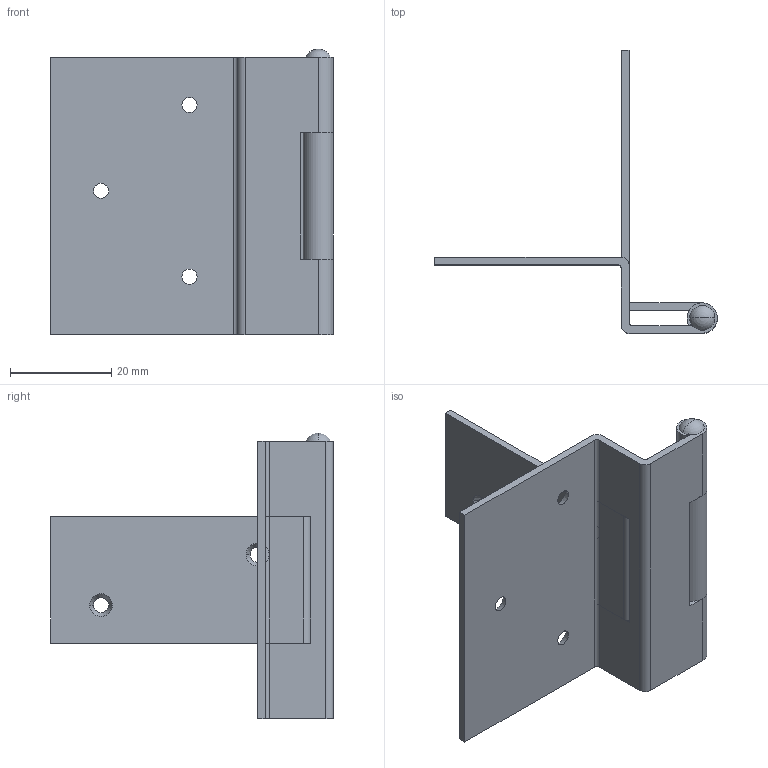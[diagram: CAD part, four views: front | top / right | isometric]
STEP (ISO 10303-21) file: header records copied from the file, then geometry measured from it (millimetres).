
FILE_DESCRIPTION(('STEP AP203'),'1');
FILE_NAME('C:/TPO v2/SharedFS/Outgoing/60-1-3303.stp','2015-07-17T13:26:39',('TraceParts'),('TraceParts S.A.'),'Spatial InterOp 3D',' ',' ');
FILE_SCHEMA(('CONFIG_CONTROL_DESIGN'));
Length unit declared in the file: millimetre
Products named in the file (2): 1; 2
Bounding box: 56 x 56 x 56.55 mm (x, y, z)
Volume: 8684.1 mm3; surface area: 12136.2 mm2
Topology: 2 solids, 2 shells, 67 faces, 192 edges, 126 vertices
Faces by surface type: plane 28, cylinder 25, cone 12, sphere 2
Entity records: 2323 total; most frequent: DIRECTION 411, CARTESIAN_POINT 385, ORIENTED_EDGE 380, EDGE_CURVE 190, AXIS2_PLACEMENT_3D 152, VERTEX_POINT 126, LINE 107, VECTOR 107
